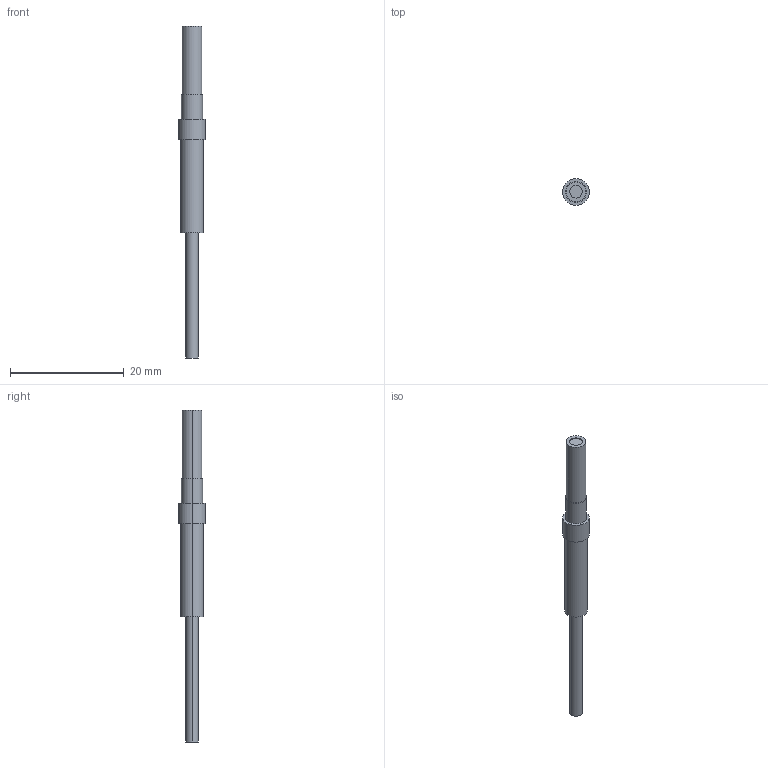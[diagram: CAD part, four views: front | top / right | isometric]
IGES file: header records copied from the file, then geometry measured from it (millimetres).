
Start section: SolidWorks IGES FILE using analytic representation for surfaces
Global section: file name: \\intra-srv04\開発データ\CAD_Data\CAD委員会\3D電子ｶﾀﾛｸﾞ\製品カタログ（新）\0_IGES\FT-K8.IGS,41HSolidWorks 2004; native system: by SolidWorks Corporation; preprocessor: Version 5.3; author: mf1158; date: 050908.105740; units: millimetre
Bounding box: 4.7 x 4.7 x 58.4 mm (x, y, z)
Volume: 514.6 mm3; surface area: 637.4 mm2
Topology: 2 solids, 2 shells, 20 faces, 36 edges, 24 vertices
Faces by surface type: revolution 12, plane 8
